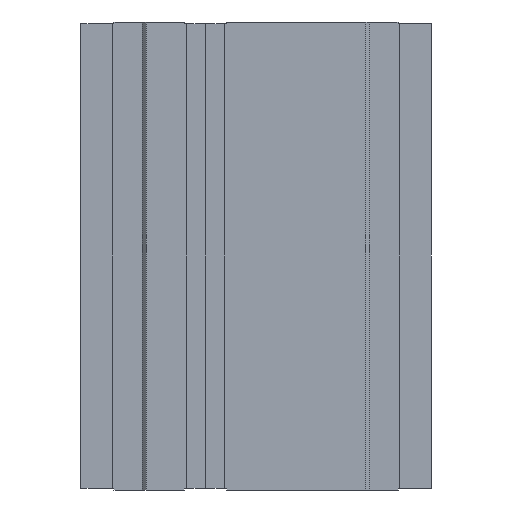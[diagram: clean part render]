
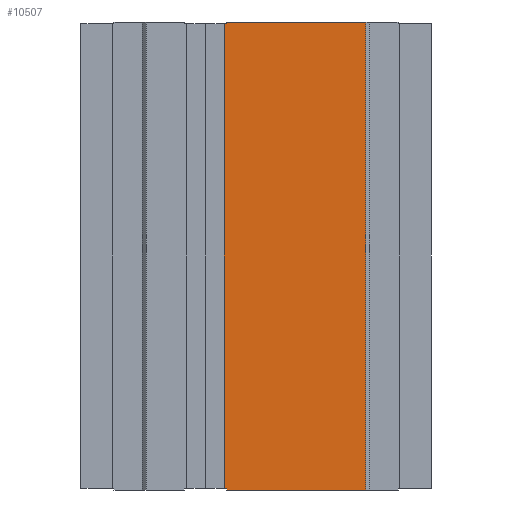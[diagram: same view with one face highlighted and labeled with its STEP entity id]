
A CAD part, left-side view. The second image highlights one B-rep face of the part: STEP entity #10507.
In plain terms, the highlighted planar face has unit normal (-1, 0, 0).
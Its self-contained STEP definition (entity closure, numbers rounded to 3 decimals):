
#49 = ORIENTED_EDGE ( 'NONE', *, *, #81, .F. ) ;
#81 = EDGE_CURVE ( 'NONE', #115, #8718, #412, .T. ) ;
#115 = VERTEX_POINT ( 'NONE', #520 ) ;
#180 = ORIENTED_EDGE ( 'NONE', *, *, #213, .T. ) ;
#213 = EDGE_CURVE ( 'NONE', #115, #270, #773, .T. ) ;
#270 = VERTEX_POINT ( 'NONE', #848 ) ;
#412 = LINE ( 'NONE', #413, #416 ) ;
#413 = CARTESIAN_POINT ( 'NONE',  ( -61.5, -11.3, -124. ) ) ;
#416 = VECTOR ( 'NONE', #417, 1000. ) ;
#417 = DIRECTION ( 'NONE',  ( 0., 0., 1. ) ) ;
#520 = CARTESIAN_POINT ( 'NONE',  ( -61.5, -11.3, -124. ) ) ;
#668 = ORIENTED_EDGE ( 'NONE', *, *, #995, .F. ) ;
#773 = LINE ( 'NONE', #774, #775 ) ;
#774 = CARTESIAN_POINT ( 'NONE',  ( -61.5, -11.3, -124. ) ) ;
#775 = VECTOR ( 'NONE', #776, 1000. ) ;
#776 = DIRECTION ( 'NONE',  ( 0., -1., 0. ) ) ;
#848 = CARTESIAN_POINT ( 'NONE',  ( -61.5, -85., -124. ) ) ;
#995 = EDGE_CURVE ( 'NONE', #1229, #270, #1060, .T. ) ;
#1060 = LINE ( 'NONE', #1061, #1062 ) ;
#1061 = CARTESIAN_POINT ( 'NONE',  ( -61.5, -85., 123. ) ) ;
#1062 = VECTOR ( 'NONE', #1065, 1000. ) ;
#1065 = DIRECTION ( 'NONE',  ( 0., 0., -1. ) ) ;
#1100 = CARTESIAN_POINT ( 'NONE',  ( -61.5, -85., 124. ) ) ;
#1229 = VERTEX_POINT ( 'NONE', #1100 ) ;
#1367 = LINE ( 'NONE', #1368, #1369 ) ;
#1368 = CARTESIAN_POINT ( 'NONE',  ( -61.5, -11.3, 124. ) ) ;
#1369 = VECTOR ( 'NONE', #1370, 1000. ) ;
#1370 = DIRECTION ( 'NONE',  ( 0., -1., 0. ) ) ;
#1440 = CARTESIAN_POINT ( 'NONE',  ( -61.5, -11.3, 124. ) ) ;
#1710 = ORIENTED_EDGE ( 'NONE', *, *, #2009, .F. ) ;
#2009 = EDGE_CURVE ( 'NONE', #2249, #1229, #1367, .T. ) ;
#2109 = LINE ( 'NONE', #2110, #2111 ) ;
#2110 = CARTESIAN_POINT ( 'NONE',  ( -61.5, -11.3, 124. ) ) ;
#2111 = VECTOR ( 'NONE', #2112, 1000. ) ;
#2112 = DIRECTION ( 'NONE',  ( 0., 0., -1. ) ) ;
#2249 = VERTEX_POINT ( 'NONE', #1440 ) ;
#2334 = CARTESIAN_POINT ( 'NONE',  ( -61.5, -11.3, 123. ) ) ;
#2735 = ORIENTED_EDGE ( 'NONE', *, *, #3033, .T. ) ;
#2948 = LINE ( 'NONE', #2949, #2950 ) ;
#2949 = CARTESIAN_POINT ( 'NONE',  ( -61.5, -10., 123. ) ) ;
#2950 = VECTOR ( 'NONE', #2951, 1000. ) ;
#2951 = DIRECTION ( 'NONE',  ( 0., -1., 0. ) ) ;
#3033 = EDGE_CURVE ( 'NONE', #2249, #3317, #2109, .T. ) ;
#3317 = VERTEX_POINT ( 'NONE', #2334 ) ;
#3648 = LINE ( 'NONE', #3649, #3654 ) ;
#3649 = CARTESIAN_POINT ( 'NONE',  ( -61.5, -10., 123. ) ) ;
#3654 = VECTOR ( 'NONE', #3655, 1000. ) ;
#3655 = DIRECTION ( 'NONE',  ( 0., 0., -1. ) ) ;
#3725 = ORIENTED_EDGE ( 'NONE', *, *, #4057, .F. ) ;
#3814 = CARTESIAN_POINT ( 'NONE',  ( -61.5, -10., 123. ) ) ;
#4057 = EDGE_CURVE ( 'NONE', #10307, #3317, #2948, .T. ) ;
#4577 = ORIENTED_EDGE ( 'NONE', *, *, #10238, .T. ) ;
#5031 = FACE_OUTER_BOUND ( 'NONE', #10543, .T. ) ;
#5034 = PLANE ( 'NONE',  #5035 ) ;
#5035 = AXIS2_PLACEMENT_3D ( 'NONE', #5036, #5037, #5038 ) ;
#5036 = CARTESIAN_POINT ( 'NONE',  ( -61.5, -10., 123. ) ) ;
#5037 = DIRECTION ( 'NONE',  ( 1., 0., 0. ) ) ;
#5038 = DIRECTION ( 'NONE',  ( 0., 1., 0. ) ) ;
#6268 = CARTESIAN_POINT ( 'NONE',  ( -61.5, -11.3, -123. ) ) ;
#6671 = LINE ( 'NONE', #6672, #6673 ) ;
#6672 = CARTESIAN_POINT ( 'NONE',  ( -61.5, -10., -123. ) ) ;
#6673 = VECTOR ( 'NONE', #6674, 1000. ) ;
#6674 = DIRECTION ( 'NONE',  ( 0., -1., 0. ) ) ;
#6787 = CARTESIAN_POINT ( 'NONE',  ( -61.5, -10., -123. ) ) ;
#8718 = VERTEX_POINT ( 'NONE', #6268 ) ;
#8913 = EDGE_CURVE ( 'NONE', #8985, #8718, #6671, .T. ) ;
#8985 = VERTEX_POINT ( 'NONE', #6787 ) ;
#10238 = EDGE_CURVE ( 'NONE', #10307, #8985, #3648, .T. ) ;
#10307 = VERTEX_POINT ( 'NONE', #3814 ) ;
#10507 = ADVANCED_FACE ( 'NONE', ( #5031 ), #5034, .F. ) ;
#10543 = EDGE_LOOP ( 'NONE', ( #10588, #49, #180, #668, #1710, #2735, #3725, #4577 ) ) ;
#10588 = ORIENTED_EDGE ( 'NONE', *, *, #8913, .T. ) ;
